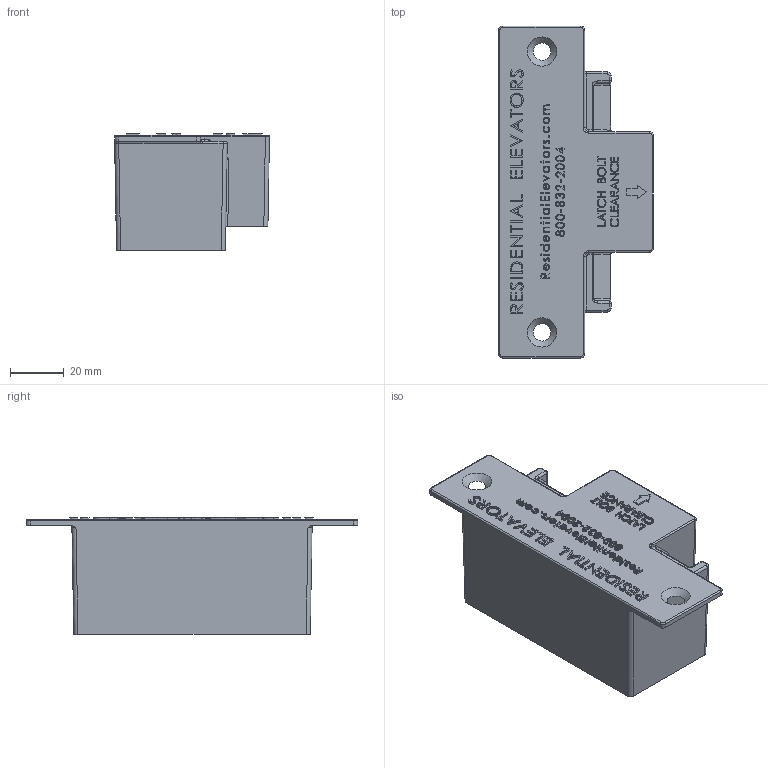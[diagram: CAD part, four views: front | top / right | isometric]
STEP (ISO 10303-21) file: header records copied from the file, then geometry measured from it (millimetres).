
FILE_DESCRIPTION((''),'1');
FILE_NAME('C:/Users/John Gilmour/Desktop/Dropbox/ACTIVE BUSINESS TO BUSINESS CUSTOMERS/RESIDENTIAL ELEVATOR, New Part/STEP FILES/EN 400 Plug REV 1 - FINAL.stp', '2021-08-20T15:52:51',(''), (''), 'KCM Version 1.1.0.0', 'KeyCreator', '');
FILE_SCHEMA(('AUTOMOTIVE_DESIGN'));
Length unit declared in the file: inch
Bounding box: 57.79 x 123.83 x 43.5 mm (x, y, z)
Volume: 52740.7 mm3; surface area: 39016 mm2
Topology: 1 solids, 1 shells, 1108 faces, 2880 edges, 1882 vertices
Faces by surface type: plane 618, bspline 378, cylinder 86, sphere 20, torus 4, cone 2
Entity records: 54591 total; most frequent: CARTESIAN_POINT 29828, ORIENTED_EDGE 5756, DIRECTION 3811, EDGE_CURVE 2878, VECTOR 1949, LINE 1949, VERTEX_POINT 1882, EDGE_LOOP 1222
